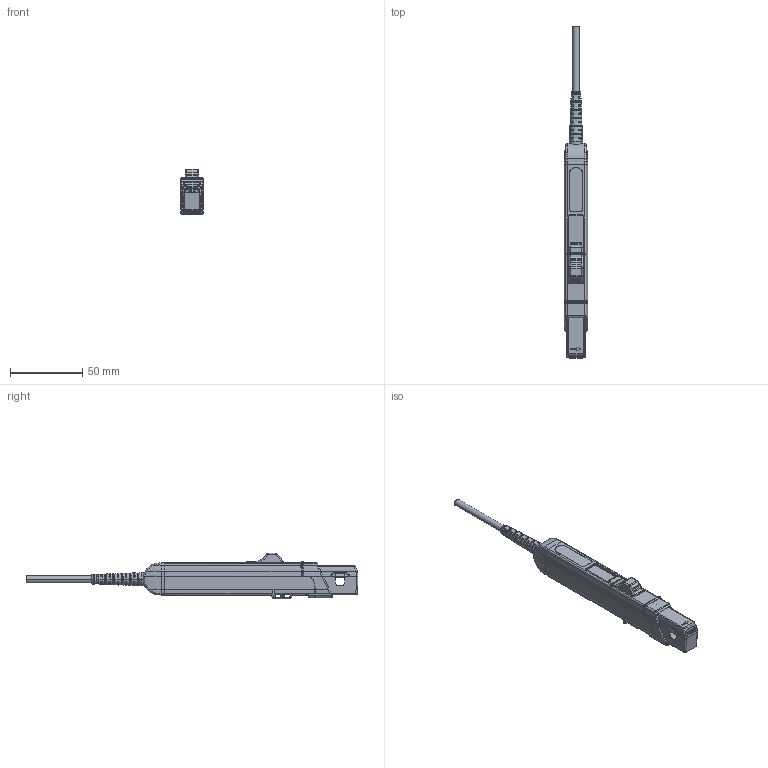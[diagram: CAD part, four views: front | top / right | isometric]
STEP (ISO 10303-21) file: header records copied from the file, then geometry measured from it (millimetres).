
FILE_DESCRIPTION((''),'2;1');
FILE_NAME('DESIGN_HVERMILY_PROBE_HEAD_BAS_ASM','2022-03-14T13:57:51',('mthomps2'),(''),'CREO PARAMETRIC BY PTC INC, 2019080','CREO PARAMETRIC BY PTC INC, 2019080','');
FILE_SCHEMA(('CONFIG_CONTROL_DESIGN','SHAPE_APPEARANCE_LAYERS_GROUPS'));
Length unit declared in the file: inch
Products named in the file (15): PH_BODY_LOWER_BAS; PH_CABLE_STUB_BAS; BOOT1_CPROBE_VPI; PH_CAP_BOOT_BAS; PH_CABLE_STUB_BAS_ASM; PH_COVER_SLIDER_BAS; PH_KNOB_SLIDER_BAS; PH_COVER_SLIDER_SUPERTIGHT_BAS; PH_SLIDER_BAS_ASM; PH_BODY_UPPER_BAS; LABEL_SN_POD_335074500_BAS; PH_LABEL_NOMEN_GENERIC_BAS; MASTER_PROBE_HEAD_BAS_ASM; COMP_SPRING_TCP; DESIGN_HVERMILY_PROBE_HEAD_BAS_ASM
Assembly tree (14 placements, depth 4):
  DESIGN_HVERMILY_PROBE_HEAD_BAS_ASM
    MASTER_PROBE_HEAD_BAS_ASM
      PH_BODY_LOWER_BAS
      PH_CABLE_STUB_BAS_ASM
        PH_CABLE_STUB_BAS
        BOOT1_CPROBE_VPI
        PH_CAP_BOOT_BAS
      PH_SLIDER_BAS_ASM
        PH_COVER_SLIDER_BAS
        PH_KNOB_SLIDER_BAS
        PH_COVER_SLIDER_SUPERTIGHT_BAS
      PH_BODY_UPPER_BAS
      LABEL_SN_POD_335074500_BAS
      PH_LABEL_NOMEN_GENERIC_BAS
    COMP_SPRING_TCP
Bounding box: 16.51 x 229.62 x 31.65 mm (x, y, z)
Volume: 27503.6 mm3; surface area: 39657.2 mm2
Topology: 11 solids, 11 shells, 3651 faces, 9587 edges, 5981 vertices
Faces by surface type: plane 1810, cylinder 965, bspline 579, torus 131, cone 86, sphere 72, extrusion 8
Entity records: 174859 total; most frequent: CARTESIAN_POINT 61934, ORIENTED_EDGE 19150, DIRECTION 14797, EDGE_CURVE 9575, PRESENTATION_STYLE_ASSIGNMENT 9554, STYLED_ITEM 9554, CURVE_STYLE 9544, VERTEX_POINT 5981
